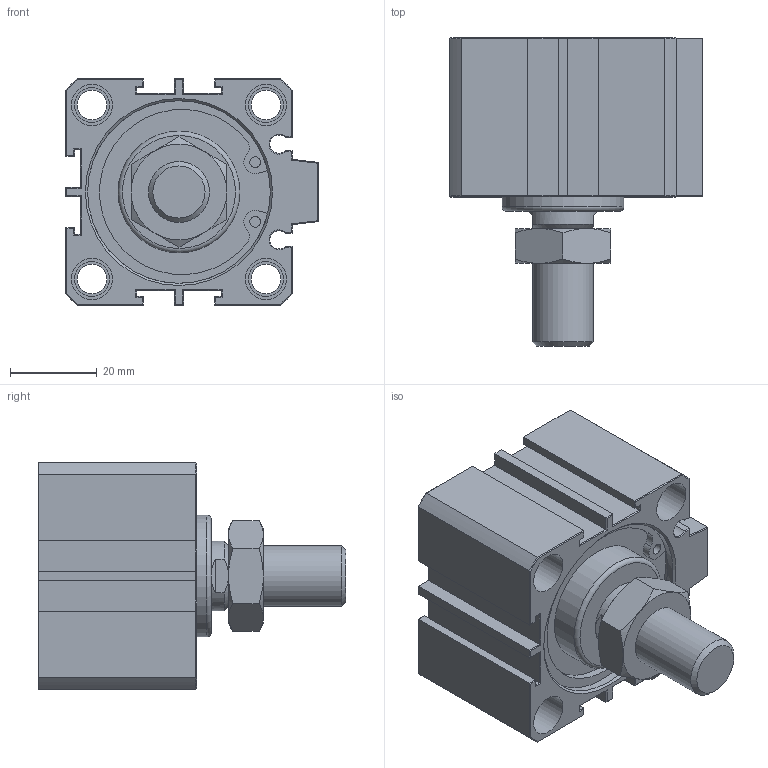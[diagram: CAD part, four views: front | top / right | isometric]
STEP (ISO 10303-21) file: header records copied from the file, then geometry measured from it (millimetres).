
FILE_DESCRIPTION(/* description */ (''),/* implementation_level */ '2;1');
FILE_NAME(/* name */ 'AJC-SD40X10W',/* time_stamp */ '2019-07-05T09:47:08+08:00',/* author */ ('JEFF HUANG'),/* organization */ ('TAIWAN AMAC CLAMP INDUSTRIAL CO., LTD.'),/* preprocessor_version */ 'ST-DEVELOPER v16.7',/* originating_system */ 'DEX',/* authorisation */ $);
FILE_SCHEMA (('AUTOMOTIVE_DESIGN {1 0 10303 214 3 1 1}'));
Length unit declared in the file: millimetre
Products named in the file (1): AJC-SD40X10W
Bounding box: 58 x 70.8 x 52 mm (x, y, z)
Volume: 88014.6 mm3; surface area: 23830.9 mm2
Topology: 1 solids, 1 shells, 283 faces, 618 edges, 366 vertices
Faces by surface type: plane 199, cylinder 51, cone 31, torus 2
Full cylindrical faces by diameter (mm): 2.5 x4, 6.8 x4, 8 x8, 9.147 x2, 9.5 x8, 14 x1, 28 x1, 29 x1, 42 x2
Entity records: 9393 total; most frequent: CARTESIAN_POINT 1388, DIRECTION 1234, ORIENTED_EDGE 1154, EDGE_CURVE 577, AXIS2_PLACEMENT_3D 425, LINE 384, VECTOR 384, VERTEX_POINT 363
